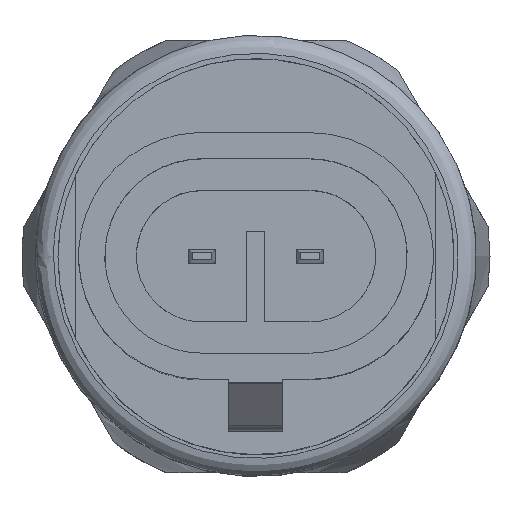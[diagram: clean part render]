
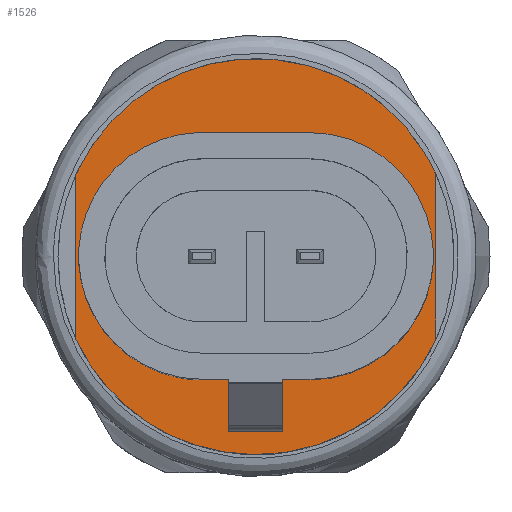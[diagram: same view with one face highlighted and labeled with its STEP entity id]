
A CAD part, top view. The second image highlights one B-rep face of the part: STEP entity #1526.
In plain terms, the highlighted free-form (B-spline) face has degree [1, 1] with [2, 2] control points.
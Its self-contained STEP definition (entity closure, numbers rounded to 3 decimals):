
#1005=CARTESIAN_POINT('V45',(3.,6.793,
   39.0));
#1006=VERTEX_POINT('V45',#1005);
#1012=CARTESIAN_POINT('V43',(-3.,6.793,
   39.0));
#1013=VERTEX_POINT('V43',#1012);
#1014=CARTESIAN_POINT('E65',(3.,6.793,
   39.0));
#1015=CARTESIAN_POINT('E65',(-3.,6.793,
   39.0));
#1016=QUASI_UNIFORM_CURVE('E65',1,(#1014,#1015),.POLYLINE_FORM.,.F.,
   .U.);
#1017=EDGE_CURVE('E65',#1006,#1013,#1016,.T.);
#1062=CARTESIAN_POINT('V46',(3.,-6.907,
   39.0));
#1063=VERTEX_POINT('V46',#1062);
#1069=CARTESIAN_POINT('E66',(3.,-6.907,
   39.0));
#1070=CARTESIAN_POINT('E66',(9.85,-6.907,
   39.0));
#1071=CARTESIAN_POINT('E66',(9.85,-0.057,
   39.0));
#1072=CARTESIAN_POINT('E66',(9.85,6.793,
   39.0));
#1073=CARTESIAN_POINT('E66',(3.,6.793,
   39.0));
#1081=(BOUNDED_CURVE()B_SPLINE_CURVE(2,(#1069,#1070,#1071,#1072,
   #1073),.CIRCULAR_ARC.,.F.,.U.)B_SPLINE_CURVE_WITH_KNOTS((3,2,3),
   (0.0,0.623,1.245),.UNSPECIFIED.)CURVE()
   GEOMETRIC_REPRESENTATION_ITEM()RATIONAL_B_SPLINE_CURVE((1.0,
   0.707,1.0,0.707,1.0))REPRESENTATION_ITEM(
   'E66'));
#1082=EDGE_CURVE('E66',#1063,#1006,#1081,.T.);
#1175=CARTESIAN_POINT('V44',(-3.,-6.907,
   39.0));
#1176=VERTEX_POINT('V44',#1175);
#1182=CARTESIAN_POINT('E67',(-3.,-6.907,
   39.0));
#1183=CARTESIAN_POINT('E67',(3.,-6.907,
   39.0));
#1184=QUASI_UNIFORM_CURVE('E67',1,(#1182,#1183),.POLYLINE_FORM.,.F.,
   .U.);
#1185=EDGE_CURVE('E67',#1176,#1063,#1184,.T.);
#1381=CARTESIAN_POINT('E64',(-3.,6.793,
   39.0));
#1382=CARTESIAN_POINT('E64',(-9.85,6.793,
   39.0));
#1383=CARTESIAN_POINT('E64',(-9.85,-0.057,
   39.0));
#1384=CARTESIAN_POINT('E64',(-9.85,-6.907,
   39.0));
#1385=CARTESIAN_POINT('E64',(-3.,-6.907,
   39.0));
#1393=(BOUNDED_CURVE()B_SPLINE_CURVE(2,(#1381,#1382,#1383,#1384,
   #1385),.CIRCULAR_ARC.,.F.,.U.)B_SPLINE_CURVE_WITH_KNOTS((3,2,3),
   (0.0,0.623,1.245),.UNSPECIFIED.)CURVE()
   GEOMETRIC_REPRESENTATION_ITEM()RATIONAL_B_SPLINE_CURVE((1.0,
   0.707,1.0,0.707,1.0))REPRESENTATION_ITEM(
   'E64'));
#1394=EDGE_CURVE('E64',#1013,#1176,#1393,.T.);
#1450=CARTESIAN_POINT('V39',(10.,-4.64,
   39.0));
#1451=VERTEX_POINT('V39',#1450);
#1458=CARTESIAN_POINT('V40',(10.,4.525,
   39.0));
#1459=VERTEX_POINT('V40',#1458);
#1465=CARTESIAN_POINT('E60',(10.,-4.64,
   39.0));
#1466=CARTESIAN_POINT('E60',(10.,4.525,
   39.0));
#1467=B_SPLINE_CURVE_WITH_KNOTS('E60',1,(#1465,#1466),
   .POLYLINE_FORM.,.F.,.U.,(2,2),(0.0,1.833),
   .UNSPECIFIED.);
#1468=EDGE_CURVE('E60',#1451,#1459,#1467,.T.);
#1473=CARTESIAN_POINT('F25',(-12.1,-12.033,
   39.0));
#1474=CARTESIAN_POINT('F25',(12.1,-12.033,
   39.0));
#1475=CARTESIAN_POINT('F25',(-12.1,11.918,
   39.0));
#1476=CARTESIAN_POINT('F25',(12.1,11.918,
   39.0));
#1477=QUASI_UNIFORM_SURFACE('F25',1,1,((#1473,#1475),(#1474,#1476))
,.PLANE_SURF.,.F.,.F.,.U.);
#1478=ORIENTED_EDGE('F26',*,*,#1468,.T.);
#1479=CARTESIAN_POINT('V41',(-10.,4.525,
   39.0));
#1480=VERTEX_POINT('V41',#1479);
#1481=CARTESIAN_POINT('E61',(-10.,4.525,
   39.0));
#1482=CARTESIAN_POINT('E61',(-8.538,7.715,
   39.0));
#1483=CARTESIAN_POINT('E61',(-5.5,9.469,
   39.0));
#1484=CARTESIAN_POINT('E61',(4.966,15.511,
   39.0));
#1485=CARTESIAN_POINT('E61',(10.,4.525,
   39.0));
#1493=(BOUNDED_CURVE()B_SPLINE_CURVE(2,(#1481,#1482,#1483,#1484,
   #1485),.CIRCULAR_ARC.,.F.,.U.)B_SPLINE_CURVE_WITH_KNOTS((3,2,3),
   (9.194,10.887,15.113),
   .UNSPECIFIED.)CURVE()GEOMETRIC_REPRESENTATION_ITEM()
   RATIONAL_B_SPLINE_CURVE((0.786,0.844,
   1.0,0.612,0.826))REPRESENTATION_ITEM('E61'
   ));
#1494=EDGE_CURVE('E61',#1480,#1459,#1493,.T.);
#1495=ORIENTED_EDGE('E61',*,*,#1494,.F.);
#1496=CARTESIAN_POINT('V42',(-10.,-4.64,
   39.0));
#1497=VERTEX_POINT('V42',#1496);
#1498=CARTESIAN_POINT('E62',(-10.,4.525,
   39.0));
#1499=CARTESIAN_POINT('E62',(-10.,-4.64,
   39.0));
#1500=B_SPLINE_CURVE_WITH_KNOTS('E62',1,(#1498,#1499),
   .POLYLINE_FORM.,.F.,.U.,(2,2),(0.0,1.833),
   .UNSPECIFIED.);
#1501=EDGE_CURVE('E62',#1480,#1497,#1500,.T.);
#1502=ORIENTED_EDGE('E62',*,*,#1501,.T.);
#1503=CARTESIAN_POINT('E63',(10.,-4.64,
   39.0));
#1504=CARTESIAN_POINT('E63',(4.966,-15.626,
   39.0));
#1505=CARTESIAN_POINT('E63',(-5.5,-9.584,
   39.0));
#1506=CARTESIAN_POINT('E63',(-8.538,-7.83,
   39.0));
#1507=CARTESIAN_POINT('E63',(-10.,-4.64,
   39.0));
#1515=(BOUNDED_CURVE()B_SPLINE_CURVE(2,(#1503,#1504,#1505,#1506,
   #1507),.CIRCULAR_ARC.,.F.,.U.)B_SPLINE_CURVE_WITH_KNOTS((3,2,3),
   (1.218,5.444,7.137),
   .UNSPECIFIED.)CURVE()GEOMETRIC_REPRESENTATION_ITEM()
   RATIONAL_B_SPLINE_CURVE((0.826,0.612,
   1.0,0.844,0.786))REPRESENTATION_ITEM('E63'
   ));
#1516=EDGE_CURVE('E63',#1451,#1497,#1515,.T.);
#1517=ORIENTED_EDGE('E63',*,*,#1516,.F.);
#1518=EDGE_LOOP('F25',(#1478,#1495,#1502,#1517));
#1519=FACE_OUTER_BOUND('F25',#1518,.T.);
#1520=ORIENTED_EDGE('E64',*,*,#1394,.F.);
#1521=ORIENTED_EDGE('E65',*,*,#1017,.F.);
#1522=ORIENTED_EDGE('E66',*,*,#1082,.F.);
#1523=ORIENTED_EDGE('E67',*,*,#1185,.F.);
#1524=EDGE_LOOP('F25',(#1520,#1521,#1522,#1523));
#1525=FACE_BOUND('F25',#1524,.T.);
#1526=ADVANCED_FACE('F25',(#1519,#1525),#1477,.T.);
